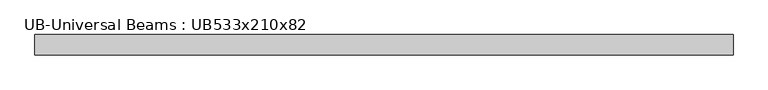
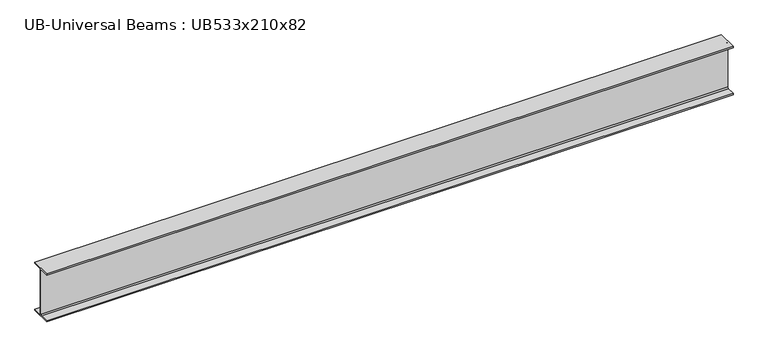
"""IFC4 building model written with IfcOpenShell, lengths in millimetres: beam geometry, UB-Universal Beams : UB533x210x82."""

from ifc_helpers import new_model, si_unit, point, frame, frame_2d, origin, place, context, project, spatial, polyline, circle_curve, trimmed, segment, composite_curve, outline, extrude, source, transform, mapped, element, save


def ub_universal_beams_ub533x210x82_80eea541(model_context):
    return source(origin(), model_context, "Body", "SweptSolid", [
        extrude(outline(composite_curve([segment(polyline([(104.4, -250.95), (104.4, -264.15), (-104.4, -264.15), (-104.4, -250.95), (-17.5, -250.95)]), True, "CONTINUOUS"), segment(trimmed(circle_curve(frame_2d((-17.5, -238.25)), 12.7), [point((-17.5, -250.95))], [point((-4.8, -238.25))], True, "CARTESIAN"), True, "CONTINUOUS"), segment(polyline([(-4.8, -238.25), (-4.8, 238.25)]), True, "CONTINUOUS"), segment(trimmed(circle_curve(frame_2d((-17.5, 238.25)), 12.7), [point((-4.8, 238.25))], [point((-17.5, 250.95))], True, "CARTESIAN"), True, "CONTINUOUS"), segment(polyline([(-17.5, 250.95), (-104.4, 250.95), (-104.4, 264.15), (104.4, 264.15), (104.4, 250.95), (17.5, 250.95)]), True, "CONTINUOUS"), segment(trimmed(circle_curve(frame_2d((17.5, 238.25)), 12.7), [point((17.5, 250.95))], [point((4.8, 238.25))], True, "CARTESIAN"), True, "CONTINUOUS"), segment(polyline([(4.8, 238.25), (4.8, -238.25)]), True, "CONTINUOUS"), segment(trimmed(circle_curve(frame_2d((17.5, -238.25)), 12.7), [point((4.8, -238.25))], [point((17.5, -250.95))], True, "CARTESIAN"), True, "CONTINUOUS"), segment(polyline([(17.5, -250.95), (104.4, -250.95)]), True, "CONTINUOUS")], self_intersect=False)), frame((-3562.9, 0.0, 0.0), z_axis=(1.0, 0.0, 0.0), x_axis=(0.0, 1.0, 0.0)), (0.0, 0.0, 1.0), 7125.8),
    ])


if __name__ == "__main__":
    model = new_model("IFC4")
    model_context = context("Model", 3, world=origin())
    ifc_project = project(units=[si_unit("LENGTHUNIT", "METRE", prefix="MILLI")], contexts=[model_context])
    site = spatial("IfcSite", under=ifc_project)
    building = spatial("IfcBuilding", under=site)
    placement = place(None, origin())
    ub_universal_beams_ub533x210x82_shape = ub_universal_beams_ub533x210x82_80eea541(model_context)
    element("IfcBeam", 1, ObjectType="UB-Universal Beams : UB533x210x82", at=placement, inside=building, context=model_context, shape_type="MappedRepresentation", body=[
        mapped(ub_universal_beams_ub533x210x82_shape, transform((0.0, 0.0, 0.0), x_axis=(1.0, 0.0, 0.0), y_axis=(0.0, 1.0, 0.0), z_axis=(0.0, 0.0, 1.0))),
    ])
    save(model, "model.ifc")
